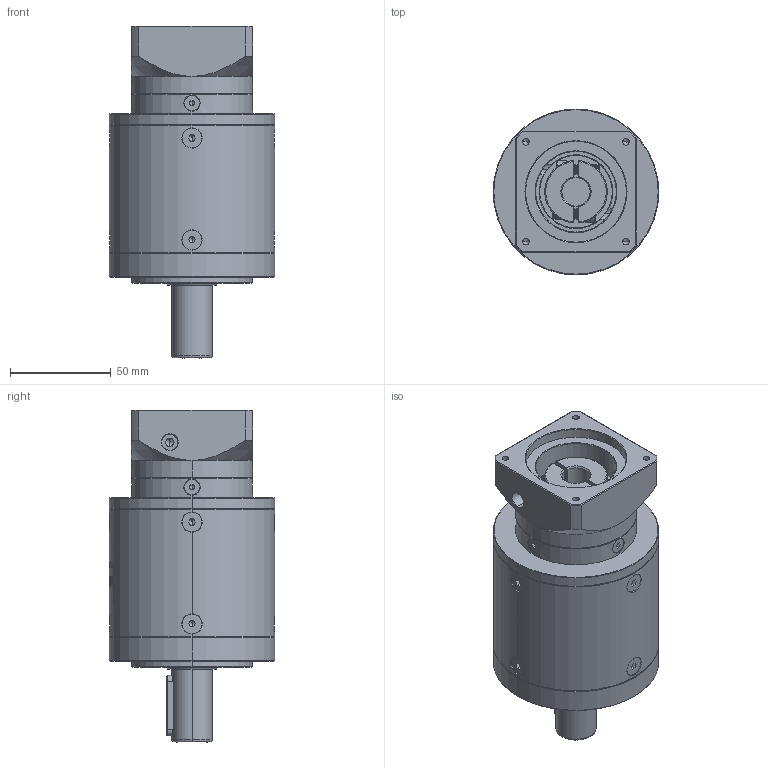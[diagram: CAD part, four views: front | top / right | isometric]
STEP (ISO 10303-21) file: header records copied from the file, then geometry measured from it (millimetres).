
FILE_DESCRIPTION (( 'STEP AP214' ), '1' );
FILE_NAME ('ZE80-D20-L3-14-50-70-M4.step', '2022-05-08T06:01:25', ( '' ), ( 'Microsoft' ), 'SwSTEP 2.0', 'SolidWorks 2016', '' );
FILE_SCHEMA (( 'AUTOMOTIVE_DESIGN' ));
Length unit declared in the file: millimetre
Products named in the file (1): ZE80-D20-L3-14-50-70-M4
Bounding box: 82 x 82 x 164.5 mm (x, y, z)
Volume: 546364 mm3; surface area: 68778.4 mm2
Topology: 18 solids, 18 shells, 1987 faces, 5199 edges, 3303 vertices
Faces by surface type: plane 935, cylinder 397, bspline 328, cone 313, torus 14
Entity records: 106825 total; most frequent: CARTESIAN_POINT 39521, ORIENTED_EDGE 10306, DIRECTION 8227, EDGE_CURVE 5153, VERTEX_POINT 3303, LINE 2809, VECTOR 2809, AXIS2_PLACEMENT_3D 2709
